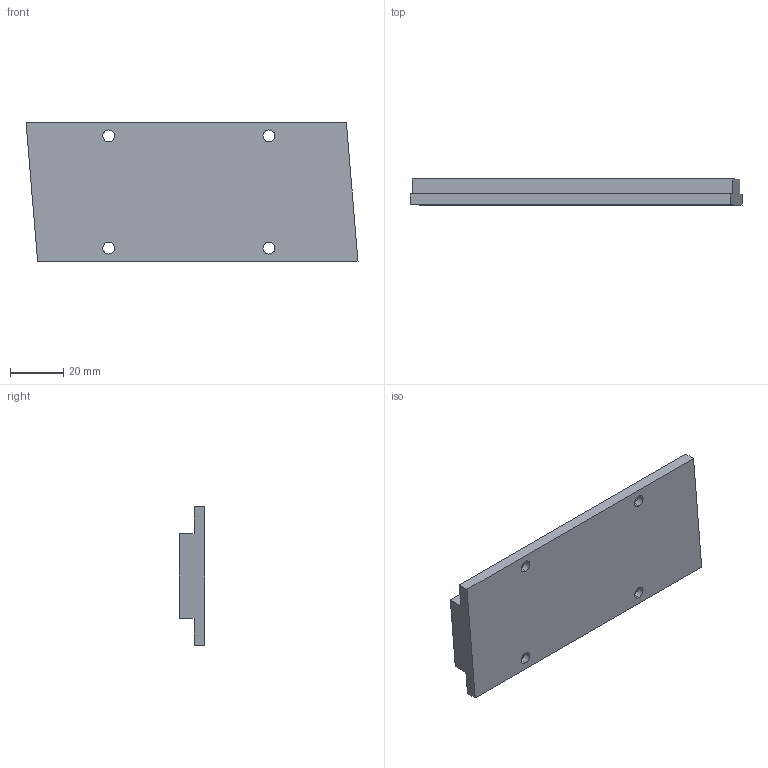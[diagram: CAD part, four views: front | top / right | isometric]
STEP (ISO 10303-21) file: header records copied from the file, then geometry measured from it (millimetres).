
FILE_DESCRIPTION (( 'STEP AP214' ), '1' );
FILE_NAME ('LMSA1S1E.STEP', '2013-07-17T08:16:18', ( ' ' ), ( '' ), 'SwSTEP 2.0', 'SolidWorks 2010', '' );
FILE_SCHEMA (( 'AUTOMOTIVE_DESIGN' ));
Length unit declared in the file: millimetre
Products named in the file (1): LMSA1S1E
Bounding box: 124.36 x 9.7 x 52 mm (x, y, z)
Volume: 46485.3 mm3; surface area: 15768.8 mm2
Topology: 1 solids, 1 shells, 57 faces, 147 edges, 98 vertices
Faces by surface type: plane 30, cylinder 16, bspline 11
Entity records: 2573 total; most frequent: CARTESIAN_POINT 1170, ORIENTED_EDGE 294, DIRECTION 251, EDGE_CURVE 147, VERTEX_POINT 98, VECTOR 93, LINE 93, AXIS2_PLACEMENT_3D 79
